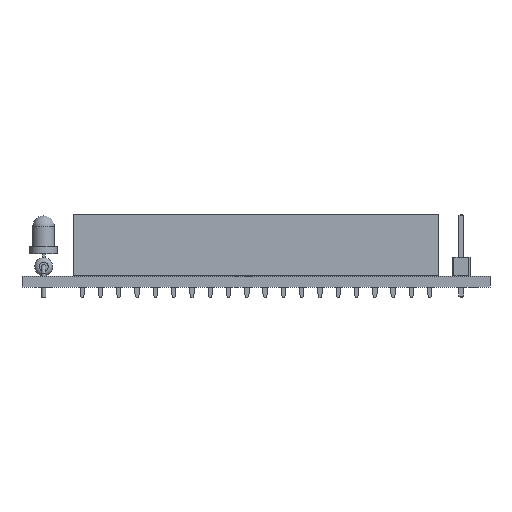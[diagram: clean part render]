
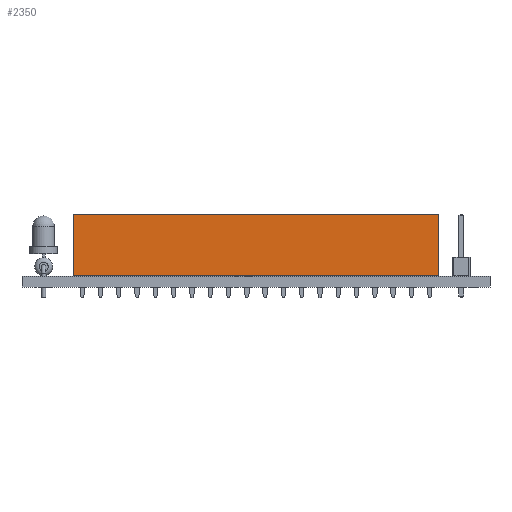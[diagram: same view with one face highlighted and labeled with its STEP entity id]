
A CAD part, front view. The second image highlights one B-rep face of the part: STEP entity #2350.
In plain terms, the highlighted planar face has unit normal (0, -1, 0) as drawn and (-1, 0, 0) by its records, which use the part's own axes.
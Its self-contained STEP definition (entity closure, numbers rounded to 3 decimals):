
#127 = VERTEX_POINT('',#128);
#128 = CARTESIAN_POINT('',(-1.27,-49.53,0.));
#136 = EDGE_CURVE('',#127,#137,#139,.T.);
#137 = VERTEX_POINT('',#138);
#138 = CARTESIAN_POINT('',(-1.27,-49.53,8.5));
#139 = LINE('',#140,#141);
#140 = CARTESIAN_POINT('',(-1.27,-49.53,0.));
#141 = VECTOR('',#142,1.);
#142 = DIRECTION('',(0.,0.,1.));
#199 = VERTEX_POINT('',#200);
#200 = CARTESIAN_POINT('',(-1.27,1.27,8.5));
#206 = EDGE_CURVE('',#207,#199,#209,.T.);
#207 = VERTEX_POINT('',#208);
#208 = CARTESIAN_POINT('',(-1.27,1.27,0.));
#209 = LINE('',#210,#211);
#210 = CARTESIAN_POINT('',(-1.27,1.27,0.));
#211 = VECTOR('',#212,1.);
#212 = DIRECTION('',(0.,0.,1.));
#271 = EDGE_CURVE('',#199,#137,#272,.T.);
#272 = LINE('',#273,#274);
#273 = CARTESIAN_POINT('',(-1.27,1.27,8.5));
#274 = VECTOR('',#275,1.);
#275 = DIRECTION('',(0.,-1.,0.));
#974 = EDGE_CURVE('',#207,#127,#975,.T.);
#975 = LINE('',#976,#977);
#976 = CARTESIAN_POINT('',(-1.27,1.27,0.));
#977 = VECTOR('',#978,1.);
#978 = DIRECTION('',(0.,-1.,0.));
#2350 = ADVANCED_FACE('',(#2351),#2357,.F.);
#2351 = FACE_BOUND('',#2352,.F.);
#2352 = EDGE_LOOP('',(#2353,#2354,#2355,#2356));
#2353 = ORIENTED_EDGE('',*,*,#206,.T.);
#2354 = ORIENTED_EDGE('',*,*,#271,.T.);
#2355 = ORIENTED_EDGE('',*,*,#136,.F.);
#2356 = ORIENTED_EDGE('',*,*,#974,.F.);
#2357 = PLANE('',#2358);
#2358 = AXIS2_PLACEMENT_3D('',#2359,#2360,#2361);
#2359 = CARTESIAN_POINT('',(-1.27,1.27,0.));
#2360 = DIRECTION('',(1.,0.,0.));
#2361 = DIRECTION('',(0.,-1.,0.));
